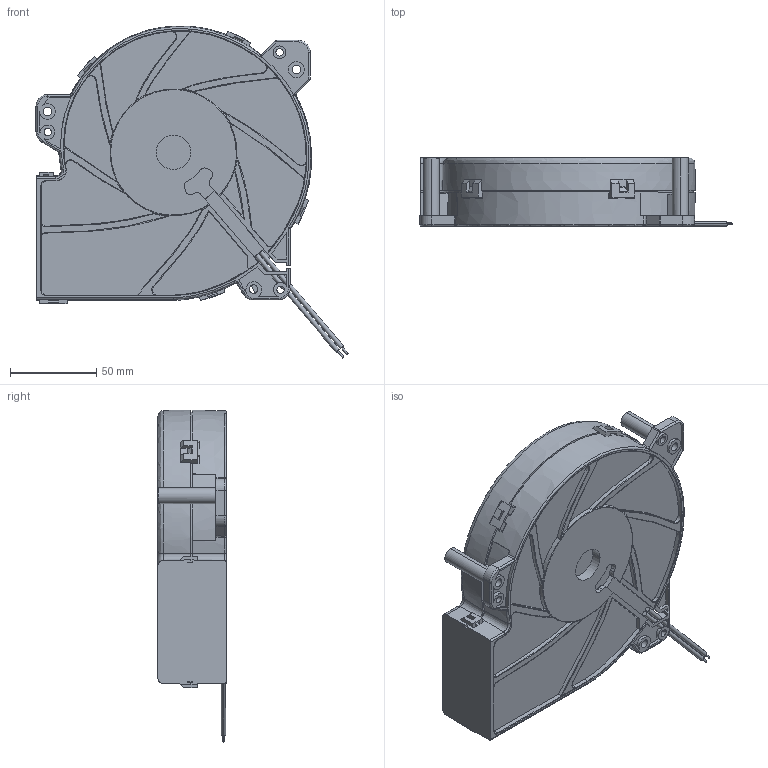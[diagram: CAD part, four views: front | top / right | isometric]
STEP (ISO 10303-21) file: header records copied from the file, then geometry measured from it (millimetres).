
FILE_DESCRIPTION((''),'2;1');
FILE_NAME('16040_1_','2026-09-20T11:16:53',('pc'),(''),'CREO PARAMETRIC BY PTC INC, 2018050','CREO PARAMETRIC BY PTC INC, 2018050','');
FILE_SCHEMA(('CONFIG_CONTROL_DESIGN','GEOMETRIC_VALIDATION_PROPERTIES_MIM'));
Length unit declared in the file: millimetre
Products named in the file (1): 16040_1_
Bounding box: 181.41 x 39.8 x 192.96 mm (x, y, z)
Volume: 728921.2 mm3; surface area: 111946.6 mm2
Topology: 1 solids, 2 shells, 815 faces, 2270 edges, 1469 vertices
Faces by surface type: plane 433, cylinder 184, bspline 95, torus 55, extrusion 38, cone 8, sphere 2
Entity records: 36460 total; most frequent: CARTESIAN_POINT 16148, ORIENTED_EDGE 4536, DIRECTION 3717, EDGE_CURVE 2268, VERTEX_POINT 1469, VECTOR 1343, LINE 1305, AXIS2_PLACEMENT_3D 1187
